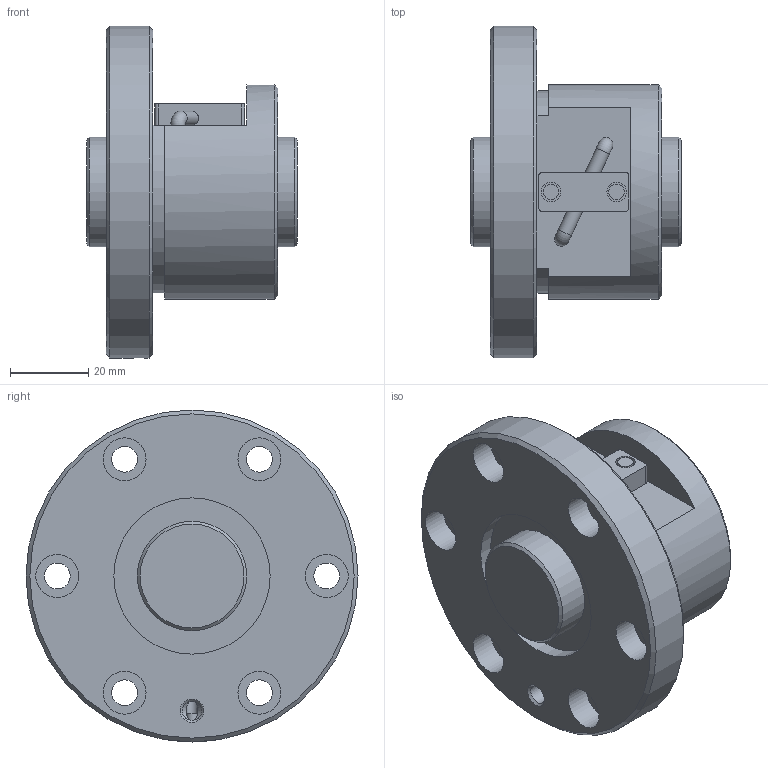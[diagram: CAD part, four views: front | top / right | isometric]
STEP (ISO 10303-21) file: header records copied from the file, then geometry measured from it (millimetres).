
FILE_DESCRIPTION(/* description */ ('STEP AP203'),/* implementation_level */ '2;1');
FILE_NAME(/* name */ 'BNF2805V-2.5RRG1+54LC0_000_rev',/* time_stamp */ '2024-08-06T07:29:47+02:00',/* author */ ('License CC BY-ND 4.0'),/* organization */ ('CADENAS'),/* preprocessor_version */ 'ST-DEVELOPER v19.3',/* originating_system */ 'PARTsolutions',/* authorisation */ ' ');
FILE_SCHEMA (('CONFIG_CONTROL_DESIGN'));
Length unit declared in the file: millimetre
Products named in the file (3): BNF2805V-2.5RRG1+54LC0_000_rev; BNF 2805-2.5RR000 Shaft; BNF 2805-2.5RR Nut
Assembly tree (2 placements, depth 2):
  BNF2805V-2.5RRG1+54LC0_000_rev
    BNF 2805-2.5RR000 Shaft
    BNF 2805-2.5RR Nut
Bounding box: 54 x 85 x 85 mm (x, y, z)
Volume: 133431 mm3; surface area: 31900.8 mm2
Topology: 2 solids, 2 shells, 70 faces, 152 edges, 99 vertices
Faces by surface type: cylinder 33, plane 27, cone 8, torus 2
Full cylindrical faces by diameter (mm): 3 x2, 3.665 x2, 4 x2, 4.917 x1, 5 x2, 6.6 x6, 11 x6, 28 x2, 40 x2, 55 x1, 85 x1
Entity records: 1803 total; most frequent: DIRECTION 316, CARTESIAN_POINT 313, ORIENTED_EDGE 210, AXIS2_PLACEMENT_3D 146, EDGE_LOOP 140, FACE_BOUND 140, EDGE_CURVE 105, VERTEX_POINT 89
